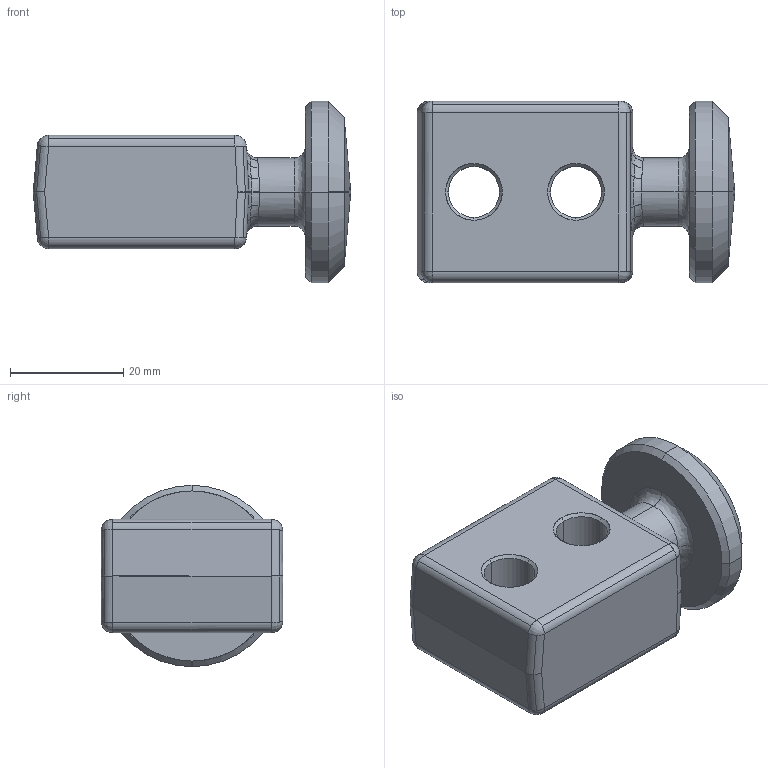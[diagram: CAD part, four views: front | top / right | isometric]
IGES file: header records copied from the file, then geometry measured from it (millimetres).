
Global section: file name: E:\UnigraphicsGraphicData\MISUMI_PRESS-PARTS\IGES\3d_chp12_03559_r00.igs; native system: NX V5.0; preprocessor: UGS NX IGES V5.0; author: MISUMI; date: 20110105.160223; units: millimetre
Bounding box: 56 x 32 x 32 mm (x, y, z)
Surface area: 7828.4 mm2 (no closed solid volume)
Topology: 0 solids, 0 shells, 137 faces, 680 edges, 666 vertices
Faces by surface type: bspline 137
